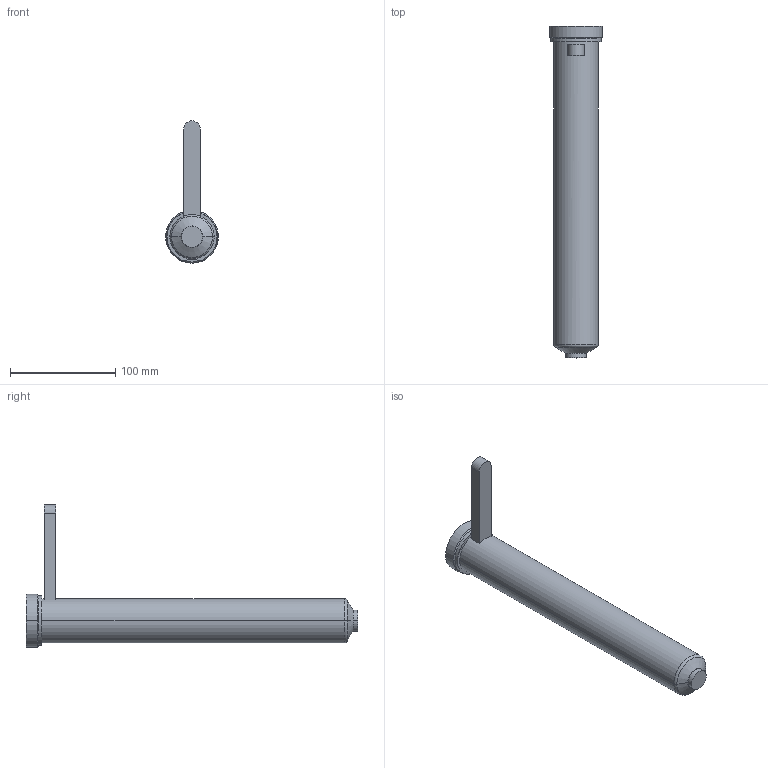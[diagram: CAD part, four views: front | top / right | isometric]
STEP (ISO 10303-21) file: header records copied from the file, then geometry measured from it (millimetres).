
FILE_DESCRIPTION((''),'2;1');
FILE_NAME('EO16_VG-FB_WR_300_COT','2024-02-19T13:47:18',('sundharh'),(''),'CREO PARAMETRIC BY PTC INC, 2023154','CREO PARAMETRIC BY PTC INC, 2023154','');
FILE_SCHEMA(('CONFIG_CONTROL_DESIGN'));
Length unit declared in the file: millimetre
Products named in the file (1): EO16_VG-FB_WR_300_COT
Bounding box: 50 x 315 x 135 mm (x, y, z)
Volume: 450278.3 mm3; surface area: 49335.3 mm2
Topology: 1 solids, 1 shells, 31 faces, 67 edges, 40 vertices
Faces by surface type: cylinder 11, plane 9, torus 7, cone 4
Entity records: 967 total; most frequent: CARTESIAN_POINT 234, DIRECTION 159, ORIENTED_EDGE 134, AXIS2_PLACEMENT_3D 67, EDGE_CURVE 67, VERTEX_POINT 40, CIRCLE 36, EDGE_LOOP 33
